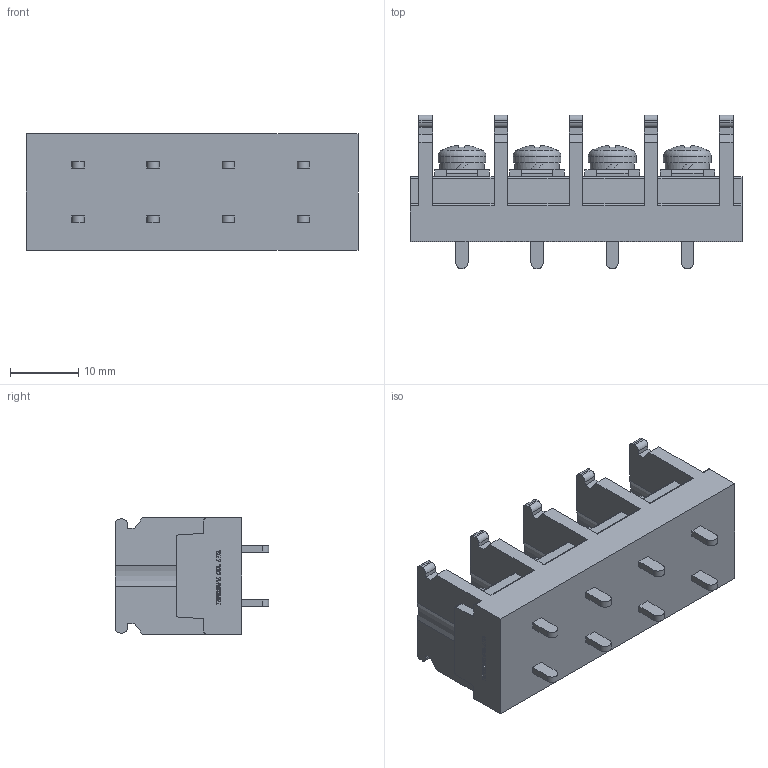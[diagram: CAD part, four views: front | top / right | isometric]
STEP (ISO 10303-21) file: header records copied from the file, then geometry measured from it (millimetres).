
FILE_DESCRIPTION(/* description */ ('Alibre Inc.'),/* implementation_level */ '2;1');
FILE_NAME(/* name */ 'export0',/* time_stamp */ '2015-10-19T19:41:21+09:00',/* author */ (''),/* organization */ (''),/* preprocessor_version */ 'ST-DEVELOPER v14',/* originating_system */ 'Alibre',/* authorisation */ '');
FILE_SCHEMA (('CONFIG_CONTROL_DESIGN'));
Length unit declared in the file: centimetre
Products named in the file (1): ID_1
Bounding box: 48.6 x 22.5 x 17 mm (x, y, z)
Volume: 9246.5 mm3; surface area: 5476.5 mm2
Topology: 1 solids, 1 shells, 728 faces, 1998 edges, 1328 vertices
Faces by surface type: plane 514, bspline 104, cylinder 82, cone 16, torus 8, sphere 4
Full cylindrical faces by diameter (mm): 4 x4, 6.5 x4, 7 x4
Entity records: 22413 total; most frequent: CARTESIAN_POINT 5051, ORIENTED_EDGE 3940, DIRECTION 2718, EDGE_CURVE 1970, VECTOR 1440, LINE 1440, VERTEX_POINT 1316, AXIS2_PLACEMENT_3D 887
